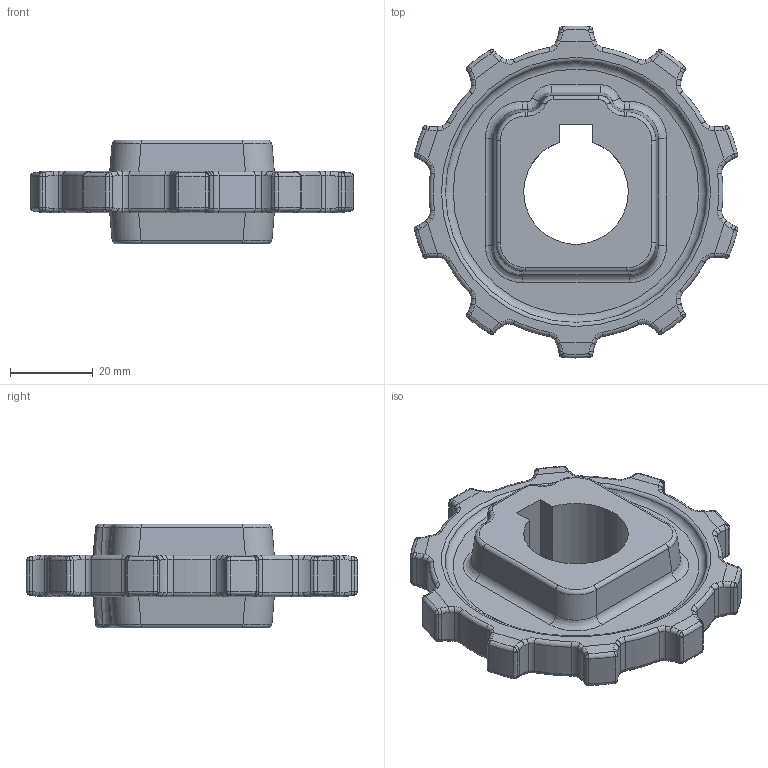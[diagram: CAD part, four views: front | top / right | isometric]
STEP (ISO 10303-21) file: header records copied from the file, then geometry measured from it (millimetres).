
FILE_DESCRIPTION(/* description */ (''),/* implementation_level */ '2;1');
FILE_NAME(/* name */ 'HS-502A-HD-10T.stp',/* time_stamp */ '2022-10-19T09:21:29+08:00',/* author */ (''),/* organization */ (''),/* preprocessor_version */ 'ST-DEVELOPER v15',/* originating_system */ 'SIEMENS PLM Software NX 8.5',/* authorisation */ '');
FILE_SCHEMA (('AP203_CONFIGURATION_CONTROLLED_3D_DESIGN_OF_MECHANICAL_PARTS_AND_ASSEMBLIES_MIM_LF { 1 0 10303 403 2 1 2}'));
Length unit declared in the file: millimetre
Products named in the file (1): Admi17342CEEz4bi
Bounding box: 77.9 x 80 x 25 mm (x, y, z)
Volume: 47651.5 mm3; surface area: 14975.9 mm2
Topology: 1 solids, 1 shells, 498 faces, 1219 edges, 687 vertices
Faces by surface type: bspline 172, cylinder 153, torus 108, plane 61, cone 4
Entity records: 18214 total; most frequent: CARTESIAN_POINT 7453, ORIENTED_EDGE 2348, DIRECTION 2196, EDGE_CURVE 1174, AXIS2_PLACEMENT_3D 959, VERTEX_POINT 686, EDGE_LOOP 508, ADVANCED_FACE 498
